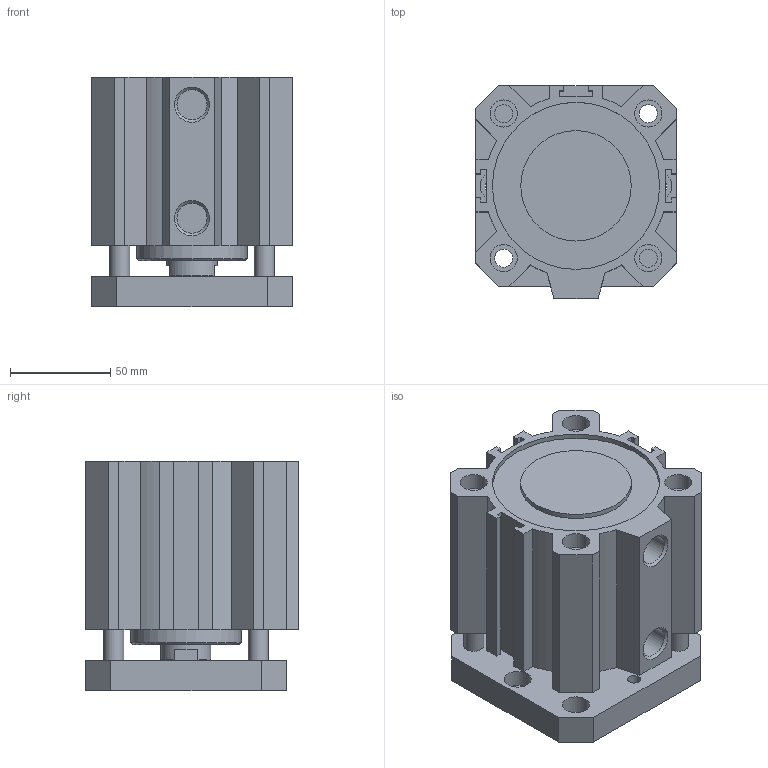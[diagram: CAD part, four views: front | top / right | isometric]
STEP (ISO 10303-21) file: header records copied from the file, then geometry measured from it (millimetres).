
FILE_DESCRIPTION(/* description */ (''),/* implementation_level */ '2;1');
FILE_NAME(/* name */ 'I:\Area Tecnica\Disegni\VARIE-3D\Componenti\1500\Ø80\15##_80_####_#\1501_80_0040_AR.stp',/* time_stamp */ '2016-08-24T14:12:28+02:00',/* author */ ('Maniean1'),/* organization */ ('Pneumax S.p.A.'),/* preprocessor_version */ 'ST-DEVELOPER v15.2',/* originating_system */ 'Autodesk Inventor 2014',/* authorisation */ '');
FILE_SCHEMA (('AUTOMOTIVE_DESIGN { 1 0 10303 214 3 1 1 }'));
Length unit declared in the file: millimetre
Products named in the file (3): C_1501_80_0040_AR; S_1501_80_0040_AR; 1501_80_0040_AR
Bounding box: 100 x 106 x 114.5 mm (x, y, z)
Volume: 659722.2 mm3; surface area: 152321.1 mm2
Topology: 2 solids, 2 shells, 139 faces, 341 edges, 228 vertices
Faces by surface type: plane 94, cylinder 40, cone 5
Full cylindrical faces by diameter (mm): 6.647 x2, 8.5 x2, 9 x4, 10 x4, 13.5 x10, 14.95 x2, 25 x2, 55 x2, 80 x2, 83.2 x2
Entity records: 4083 total; most frequent: CARTESIAN_POINT 674, DIRECTION 672, ORIENTED_EDGE 600, EDGE_CURVE 300, AXIS2_PLACEMENT_3D 232, VERTEX_POINT 222, EDGE_LOOP 216, LINE 208
